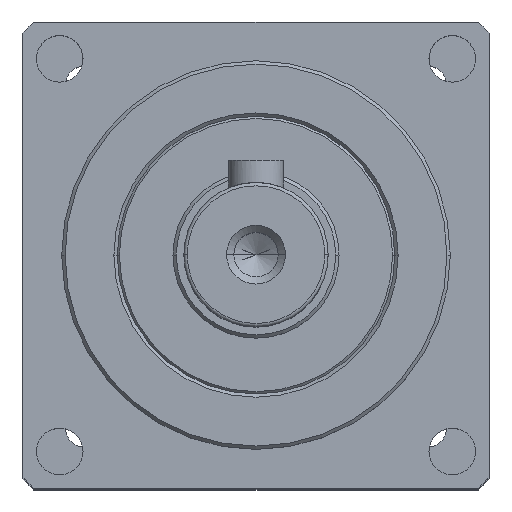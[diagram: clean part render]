
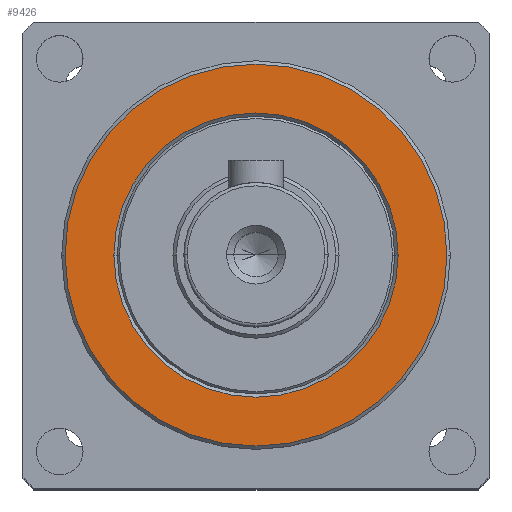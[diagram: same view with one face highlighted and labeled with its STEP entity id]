
A CAD part, top view. The second image highlights one B-rep face of the part: STEP entity #9426.
In plain terms, the highlighted planar face has unit normal (0, 0, 1).
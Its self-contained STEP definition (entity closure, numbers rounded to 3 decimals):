
#221 = AXIS2_PLACEMENT_3D ( 'NONE', #7370, #2949, #8105 ) ;
#389 = AXIS2_PLACEMENT_3D ( 'NONE', #7979, #3567, #8748 ) ;
#1046 = EDGE_CURVE ( 'NONE', #3389, #3594, #9537, .T. ) ;
#1212 = DIRECTION ( 'NONE',  ( 0., 0., 1. ) ) ;
#1285 = DIRECTION ( 'NONE',  ( 0., 0., -1. ) ) ;
#1295 = DIRECTION ( 'NONE',  ( 0., 0., -1. ) ) ;
#1454 = VERTEX_POINT ( 'NONE', #2643 ) ;
#1466 = AXIS2_PLACEMENT_3D ( 'NONE', #5714, #1285, #6479 ) ;
#1747 = FACE_BOUND ( 'NONE', #6680, .T. ) ;
#2546 = CARTESIAN_POINT ( 'NONE',  ( 38.2, 21., 90. ) ) ;
#2643 = CARTESIAN_POINT ( 'NONE',  ( 33.8, 21., 90. ) ) ;
#2949 = DIRECTION ( 'NONE',  ( 0., 0., 1. ) ) ;
#3125 = EDGE_LOOP ( 'NONE', ( #8809, #4355 ) ) ;
#3195 = EDGE_CURVE ( 'NONE', #3594, #3389, #6303, .T. ) ;
#3291 = AXIS2_PLACEMENT_3D ( 'NONE', #5723, #1295, #6485 ) ;
#3389 = VERTEX_POINT ( 'NONE', #6703 ) ;
#3567 = DIRECTION ( 'NONE',  ( 0., 0., 1. ) ) ;
#3594 = VERTEX_POINT ( 'NONE', #2546 ) ;
#3769 = CIRCLE ( 'NONE', #1466, 12.8 ) ;
#3888 = AXIS2_PLACEMENT_3D ( 'NONE', #5648, #1212, #6411 ) ;
#4291 = ORIENTED_EDGE ( 'NONE', *, *, #8774, .T. ) ;
#4355 = ORIENTED_EDGE ( 'NONE', *, *, #3195, .T. ) ;
#5267 = VERTEX_POINT ( 'NONE', #7964 ) ;
#5648 = CARTESIAN_POINT ( 'NONE',  ( 21., 21., 90. ) ) ;
#5714 = CARTESIAN_POINT ( 'NONE',  ( 21., 21., 90. ) ) ;
#5723 = CARTESIAN_POINT ( 'NONE',  ( 21., 21., 90. ) ) ;
#5781 = EDGE_CURVE ( 'NONE', #1454, #5267, #3769, .T. ) ;
#6303 = CIRCLE ( 'NONE', #389, 17.2 ) ;
#6411 = DIRECTION ( 'NONE',  ( 1., 0., 0. ) ) ;
#6479 = DIRECTION ( 'NONE',  ( 1., 0., 0. ) ) ;
#6485 = DIRECTION ( 'NONE',  ( 1., 0., 0. ) ) ;
#6680 = EDGE_LOOP ( 'NONE', ( #9313, #4291 ) ) ;
#6703 = CARTESIAN_POINT ( 'NONE',  ( 3.8, 21., 90. ) ) ;
#7370 = CARTESIAN_POINT ( 'NONE',  ( 21., 21., 90. ) ) ;
#7964 = CARTESIAN_POINT ( 'NONE',  ( 8.2, 21., 90. ) ) ;
#7979 = CARTESIAN_POINT ( 'NONE',  ( 21., 21., 90. ) ) ;
#8077 = PLANE ( 'NONE',  #221 ) ;
#8105 = DIRECTION ( 'NONE',  ( 1., 0., 0. ) ) ;
#8380 = CIRCLE ( 'NONE', #3291, 12.8 ) ;
#8748 = DIRECTION ( 'NONE',  ( 1., 0., 0. ) ) ;
#8774 = EDGE_CURVE ( 'NONE', #5267, #1454, #8380, .T. ) ;
#8809 = ORIENTED_EDGE ( 'NONE', *, *, #1046, .T. ) ;
#9313 = ORIENTED_EDGE ( 'NONE', *, *, #5781, .T. ) ;
#9426 = ADVANCED_FACE ( 'NONE', ( #1747, #9437 ), #8077, .T. ) ;
#9437 = FACE_OUTER_BOUND ( 'NONE', #3125, .T. ) ;
#9537 = CIRCLE ( 'NONE', #3888, 17.2 ) ;
